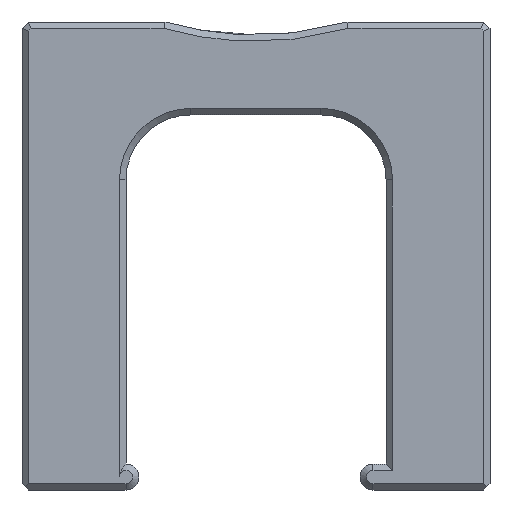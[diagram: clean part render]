
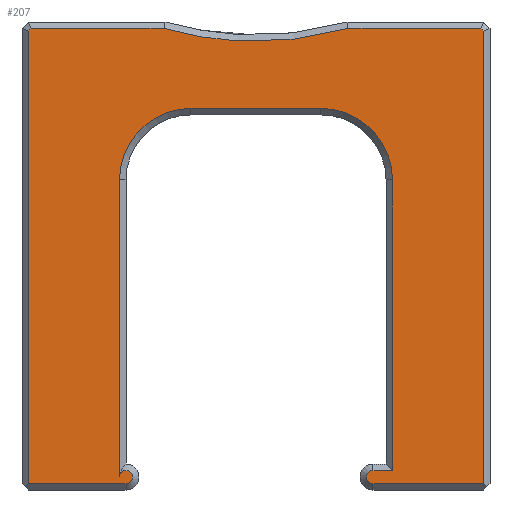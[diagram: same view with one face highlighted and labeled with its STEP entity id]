
A CAD part, left-side view. The second image highlights one B-rep face of the part: STEP entity #207.
In plain terms, the highlighted planar face has unit normal (-1, 0, 0).
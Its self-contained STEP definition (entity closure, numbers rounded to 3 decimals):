
#52=CARTESIAN_POINT('Axis2P3D Location',(-5.,0.,0.)) ;
#57=CARTESIAN_POINT('Line Origine',(-5.,28.604,15.396)) ;
#61=CARTESIAN_POINT('Vertex',(-5.,28.5,15.293)) ;
#63=CARTESIAN_POINT('Vertex',(-5.,28.707,15.5)) ;
#66=CARTESIAN_POINT('Line Origine',(-5.,33.819,15.5)) ;
#70=CARTESIAN_POINT('Vertex',(-5.,38.93,15.5)) ;
#74=CARTESIAN_POINT('Control Point',(-5.,38.93,15.5)) ;
#75=CARTESIAN_POINT('Control Point',(-5.,39.017,15.475)) ;
#76=CARTESIAN_POINT('Control Point',(-5.,39.104,15.451)) ;
#77=CARTESIAN_POINT('Control Point',(-5.,39.192,15.427)) ;
#78=CARTESIAN_POINT('Control Point',(-5.,40.59,15.05)) ;
#79=CARTESIAN_POINT('Control Point',(-5.,42.002,14.767)) ;
#80=CARTESIAN_POINT('Control Point',(-5.,43.332,14.589)) ;
#81=CARTESIAN_POINT('Control Point',(-5.,46.073,14.406)) ;
#82=CARTESIAN_POINT('Control Point',(-5.,48.815,14.599)) ;
#83=CARTESIAN_POINT('Control Point',(-5.,50.217,14.797)) ;
#84=CARTESIAN_POINT('Control Point',(-5.,51.626,15.095)) ;
#85=CARTESIAN_POINT('Control Point',(-5.,53.021,15.486)) ;
#86=CARTESIAN_POINT('Control Point',(-5.,53.037,15.491)) ;
#87=CARTESIAN_POINT('Control Point',(-5.,53.053,15.495)) ;
#88=CARTESIAN_POINT('Control Point',(-5.,53.07,15.5)) ;
#89=CARTESIAN_POINT('Vertex',(-5.,53.07,15.5)) ;
#92=CARTESIAN_POINT('Line Origine',(-5.,58.181,15.5)) ;
#96=CARTESIAN_POINT('Vertex',(-5.,63.293,15.5)) ;
#99=CARTESIAN_POINT('Line Origine',(-5.,63.396,15.396)) ;
#103=CARTESIAN_POINT('Vertex',(-5.,63.5,15.293)) ;
#106=CARTESIAN_POINT('Line Origine',(-5.,63.5,-2.104)) ;
#110=CARTESIAN_POINT('Vertex',(-5.,63.5,-19.5)) ;
#113=CARTESIAN_POINT('Line Origine',(-5.,59.75,-19.5)) ;
#117=CARTESIAN_POINT('Vertex',(-5.,56.,-19.5)) ;
#120=CARTESIAN_POINT('Axis2P3D Location',(-5.,56.,-19.)) ;
#124=CARTESIAN_POINT('Vertex',(-5.,56.5,-19.)) ;
#127=CARTESIAN_POINT('Line Origine',(-5.,56.5,-7.575)) ;
#131=CARTESIAN_POINT('Vertex',(-5.,56.5,3.85)) ;
#134=CARTESIAN_POINT('Axis2P3D Location',(-5.,51.,3.85)) ;
#138=CARTESIAN_POINT('Vertex',(-5.,51.,9.35)) ;
#141=CARTESIAN_POINT('Line Origine',(-5.,46.,9.35)) ;
#145=CARTESIAN_POINT('Vertex',(-5.,41.,9.35)) ;
#148=CARTESIAN_POINT('Axis2P3D Location',(-5.,41.,3.85)) ;
#152=CARTESIAN_POINT('Vertex',(-5.,35.5,3.85)) ;
#155=CARTESIAN_POINT('Line Origine',(-5.,35.5,-7.325)) ;
#159=CARTESIAN_POINT('Vertex',(-5.,35.5,-18.5)) ;
#162=CARTESIAN_POINT('Line Origine',(-5.,36.25,-18.5)) ;
#166=CARTESIAN_POINT('Vertex',(-5.,37.,-18.5)) ;
#169=CARTESIAN_POINT('Axis2P3D Location',(-5.,37.,-19.)) ;
#173=CARTESIAN_POINT('Vertex',(-5.,37.,-19.5)) ;
#176=CARTESIAN_POINT('Line Origine',(-5.,32.75,-19.5)) ;
#180=CARTESIAN_POINT('Vertex',(-5.,28.5,-19.5)) ;
#183=CARTESIAN_POINT('Line Origine',(-5.,28.5,-2.104)) ;
#53=DIRECTION('Axis2P3D Direction',(1.,0.,0.)) ;
#54=DIRECTION('Axis2P3D XDirection',(0.,1.,0.)) ;
#58=DIRECTION('Vector Direction',(0.,-0.707,-0.707)) ;
#67=DIRECTION('Vector Direction',(0.,-1.,0.)) ;
#93=DIRECTION('Vector Direction',(0.,-1.,0.)) ;
#100=DIRECTION('Vector Direction',(0.,0.707,-0.707)) ;
#107=DIRECTION('Vector Direction',(0.,0.,1.)) ;
#114=DIRECTION('Vector Direction',(0.,1.,0.)) ;
#121=DIRECTION('Axis2P3D Direction',(1.,0.,0.)) ;
#128=DIRECTION('Vector Direction',(0.,0.,-1.)) ;
#135=DIRECTION('Axis2P3D Direction',(1.,0.,0.)) ;
#142=DIRECTION('Vector Direction',(0.,-1.,0.)) ;
#149=DIRECTION('Axis2P3D Direction',(1.,0.,0.)) ;
#156=DIRECTION('Vector Direction',(0.,0.,-1.)) ;
#163=DIRECTION('Vector Direction',(0.,1.,0.)) ;
#170=DIRECTION('Axis2P3D Direction',(1.,0.,0.)) ;
#177=DIRECTION('Vector Direction',(0.,1.,0.)) ;
#184=DIRECTION('Vector Direction',(0.,0.,1.)) ;
#55=AXIS2_PLACEMENT_3D('Plane Axis2P3D',#52,#53,#54) ;
#122=AXIS2_PLACEMENT_3D('Circle Axis2P3D',#120,#121,$) ;
#136=AXIS2_PLACEMENT_3D('Circle Axis2P3D',#134,#135,$) ;
#150=AXIS2_PLACEMENT_3D('Circle Axis2P3D',#148,#149,$) ;
#171=AXIS2_PLACEMENT_3D('Circle Axis2P3D',#169,#170,$) ;
#189=ORIENTED_EDGE('',*,*,#65,.T.) ;
#190=ORIENTED_EDGE('',*,*,#72,.T.) ;
#191=ORIENTED_EDGE('',*,*,#91,.T.) ;
#192=ORIENTED_EDGE('',*,*,#98,.T.) ;
#193=ORIENTED_EDGE('',*,*,#105,.T.) ;
#194=ORIENTED_EDGE('',*,*,#112,.T.) ;
#195=ORIENTED_EDGE('',*,*,#119,.T.) ;
#196=ORIENTED_EDGE('',*,*,#126,.T.) ;
#197=ORIENTED_EDGE('',*,*,#133,.T.) ;
#198=ORIENTED_EDGE('',*,*,#140,.T.) ;
#199=ORIENTED_EDGE('',*,*,#147,.T.) ;
#200=ORIENTED_EDGE('',*,*,#154,.T.) ;
#201=ORIENTED_EDGE('',*,*,#161,.T.) ;
#202=ORIENTED_EDGE('',*,*,#168,.T.) ;
#203=ORIENTED_EDGE('',*,*,#175,.T.) ;
#204=ORIENTED_EDGE('',*,*,#182,.T.) ;
#205=ORIENTED_EDGE('',*,*,#187,.T.) ;
#59=VECTOR('Line Direction',#58,1.) ;
#68=VECTOR('Line Direction',#67,1.) ;
#94=VECTOR('Line Direction',#93,1.) ;
#101=VECTOR('Line Direction',#100,1.) ;
#108=VECTOR('Line Direction',#107,1.) ;
#115=VECTOR('Line Direction',#114,1.) ;
#129=VECTOR('Line Direction',#128,1.) ;
#143=VECTOR('Line Direction',#142,1.) ;
#157=VECTOR('Line Direction',#156,1.) ;
#164=VECTOR('Line Direction',#163,1.) ;
#178=VECTOR('Line Direction',#177,1.) ;
#185=VECTOR('Line Direction',#184,1.) ;
#207=ADVANCED_FACE('PartBody',(#206),#56,.F.) ;
#73=B_SPLINE_CURVE_WITH_KNOTS('',5,(#74,#75,#76,#77,#78,#79,#80,#81,#82,#83,#84,#85,#86,#87,#88),.UNSPECIFIED.,.F.,.U.,(6,3,3,3,6),(24.603,25.242,34.629,44.53,44.647),.UNSPECIFIED.) ;
#123=CIRCLE('generated circle',#122,0.5) ;
#137=CIRCLE('generated circle',#136,5.5) ;
#151=CIRCLE('generated circle',#150,5.5) ;
#172=CIRCLE('generated circle',#171,0.5) ;
#65=EDGE_CURVE('',#62,#64,#60,.F.) ;
#72=EDGE_CURVE('',#64,#71,#69,.F.) ;
#91=EDGE_CURVE('',#71,#90,#73,.T.) ;
#98=EDGE_CURVE('',#90,#97,#95,.F.) ;
#105=EDGE_CURVE('',#97,#104,#102,.T.) ;
#112=EDGE_CURVE('',#104,#111,#109,.F.) ;
#119=EDGE_CURVE('',#111,#118,#116,.F.) ;
#126=EDGE_CURVE('',#118,#125,#123,.F.) ;
#133=EDGE_CURVE('',#125,#132,#130,.F.) ;
#140=EDGE_CURVE('',#132,#139,#137,.T.) ;
#147=EDGE_CURVE('',#139,#146,#144,.T.) ;
#154=EDGE_CURVE('',#146,#153,#151,.T.) ;
#161=EDGE_CURVE('',#153,#160,#158,.T.) ;
#168=EDGE_CURVE('',#160,#167,#165,.T.) ;
#175=EDGE_CURVE('',#167,#174,#172,.F.) ;
#182=EDGE_CURVE('',#174,#181,#179,.F.) ;
#187=EDGE_CURVE('',#181,#62,#186,.T.) ;
#188=EDGE_LOOP('',(#189,#190,#191,#192,#193,#194,#195,#196,#197,#198,#199,#200,#201,#202,#203,#204,#205)) ;
#206=FACE_OUTER_BOUND('',#188,.T.) ;
#60=LINE('Line',#57,#59) ;
#69=LINE('Line',#66,#68) ;
#95=LINE('Line',#92,#94) ;
#102=LINE('Line',#99,#101) ;
#109=LINE('Line',#106,#108) ;
#116=LINE('Line',#113,#115) ;
#130=LINE('Line',#127,#129) ;
#144=LINE('Line',#141,#143) ;
#158=LINE('Line',#155,#157) ;
#165=LINE('Line',#162,#164) ;
#179=LINE('Line',#176,#178) ;
#186=LINE('Line',#183,#185) ;
#56=PLANE('Plane',#55) ;
#62=VERTEX_POINT('',#61) ;
#64=VERTEX_POINT('',#63) ;
#71=VERTEX_POINT('',#70) ;
#90=VERTEX_POINT('',#89) ;
#97=VERTEX_POINT('',#96) ;
#104=VERTEX_POINT('',#103) ;
#111=VERTEX_POINT('',#110) ;
#118=VERTEX_POINT('',#117) ;
#125=VERTEX_POINT('',#124) ;
#132=VERTEX_POINT('',#131) ;
#139=VERTEX_POINT('',#138) ;
#146=VERTEX_POINT('',#145) ;
#153=VERTEX_POINT('',#152) ;
#160=VERTEX_POINT('',#159) ;
#167=VERTEX_POINT('',#166) ;
#174=VERTEX_POINT('',#173) ;
#181=VERTEX_POINT('',#180) ;
